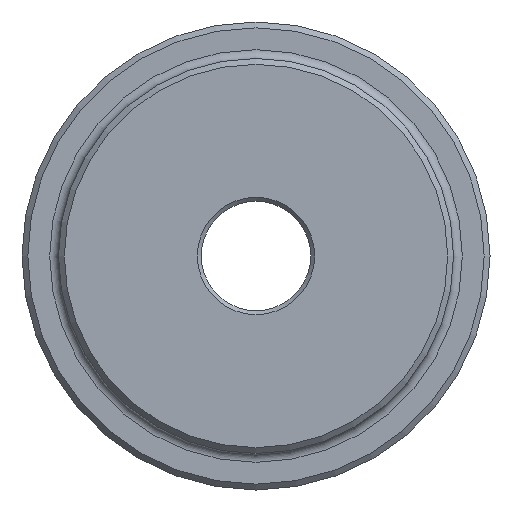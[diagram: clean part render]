
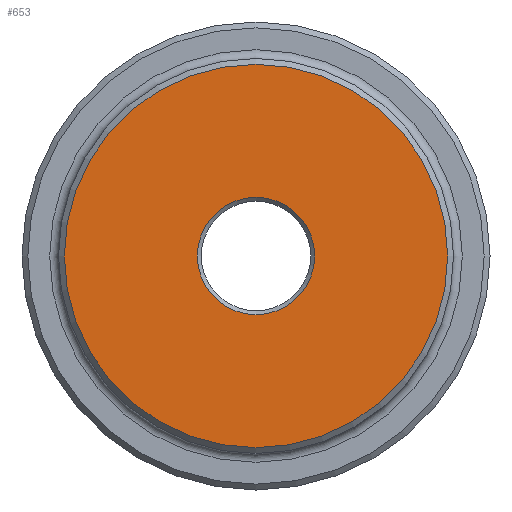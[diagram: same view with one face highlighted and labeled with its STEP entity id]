
A CAD part, left-side view. The second image highlights one B-rep face of the part: STEP entity #653.
In plain terms, the highlighted planar face has unit normal (-1, 0, 0).
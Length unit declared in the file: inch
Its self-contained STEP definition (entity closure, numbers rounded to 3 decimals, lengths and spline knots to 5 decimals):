
#13 = DIRECTION ( 'NONE',  ( 1., 0., 0. ) ) ;
#171 = FACE_OUTER_BOUND ( 'NONE', #1778, .T. ) ;
#278 = EDGE_LOOP ( 'NONE', ( #1887 ) ) ;
#365 = AXIS2_PLACEMENT_3D ( 'NONE', #2298, #13, #882 ) ;
#404 = DIRECTION ( 'NONE',  ( 0., 0., -1. ) ) ;
#416 = CIRCLE ( 'NONE', #1668, 1.97 ) ;
#601 = PLANE ( 'NONE',  #1265 ) ;
#653 = ADVANCED_FACE ( 'NONE', ( #2179, #171 ), #601, .F. ) ;
#726 = CARTESIAN_POINT ( 'NONE',  ( 0., 0., -0.60275 ) ) ;
#882 = DIRECTION ( 'NONE',  ( 0., 0., -1. ) ) ;
#1179 = DIRECTION ( 'NONE',  ( 0., 0., -1. ) ) ;
#1265 = AXIS2_PLACEMENT_3D ( 'NONE', #1784, #1427, #1179 ) ;
#1321 = VERTEX_POINT ( 'NONE', #726 ) ;
#1427 = DIRECTION ( 'NONE',  ( 1., 0., 0. ) ) ;
#1569 = CIRCLE ( 'NONE', #365, 0.60275 ) ;
#1642 = CARTESIAN_POINT ( 'NONE',  ( 0., 0., -1.97 ) ) ;
#1668 = AXIS2_PLACEMENT_3D ( 'NONE', #2183, #1947, #404 ) ;
#1778 = EDGE_LOOP ( 'NONE', ( #2354 ) ) ;
#1784 = CARTESIAN_POINT ( 'NONE',  ( 0., 0., 0. ) ) ;
#1887 = ORIENTED_EDGE ( 'NONE', *, *, #1934, .T. ) ;
#1934 = EDGE_CURVE ( 'NONE', #1321, #1321, #1569, .T. ) ;
#1947 = DIRECTION ( 'NONE',  ( -1., 0., 0. ) ) ;
#2080 = VERTEX_POINT ( 'NONE', #1642 ) ;
#2179 = FACE_BOUND ( 'NONE', #278, .T. ) ;
#2183 = CARTESIAN_POINT ( 'NONE',  ( 0., 0., 0. ) ) ;
#2295 = EDGE_CURVE ( 'NONE', #2080, #2080, #416, .T. ) ;
#2298 = CARTESIAN_POINT ( 'NONE',  ( 0., 0., 0. ) ) ;
#2354 = ORIENTED_EDGE ( 'NONE', *, *, #2295, .T. ) ;
